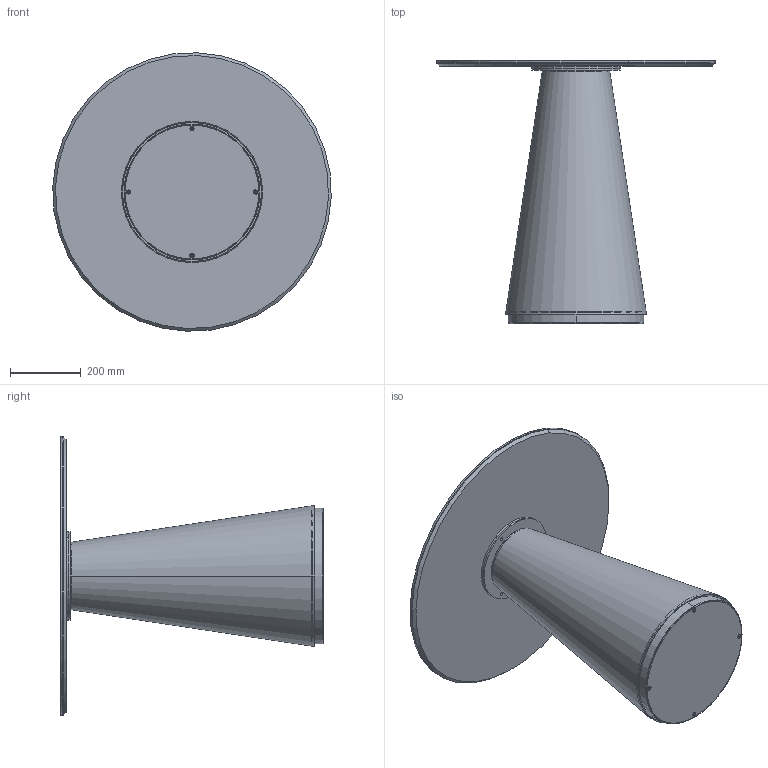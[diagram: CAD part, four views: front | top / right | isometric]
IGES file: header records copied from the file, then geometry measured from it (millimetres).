
Start section: SolidWorks IGES file using analytic representation for surfaces
Global section: file name: Y:\eforma\TECNICO\SOLIDWORKS\E-FORMA\5-TAVOLINI BISTRO\TED\02 parts\TE20C.IGS; native system: SolidWorks 2022; preprocessor: SolidWorks 2022; author: eforma.tech; date: 240808.095230; units: millimetre
Bounding box: 789.44 x 745.5 x 789.44 mm (x, y, z)
Volume: 9442749.2 mm3; surface area: 3896840.2 mm2
Topology: 16 solids, 16 shells, 376 faces, 791 edges, 440 vertices
Faces by surface type: revolution 197, plane 179
